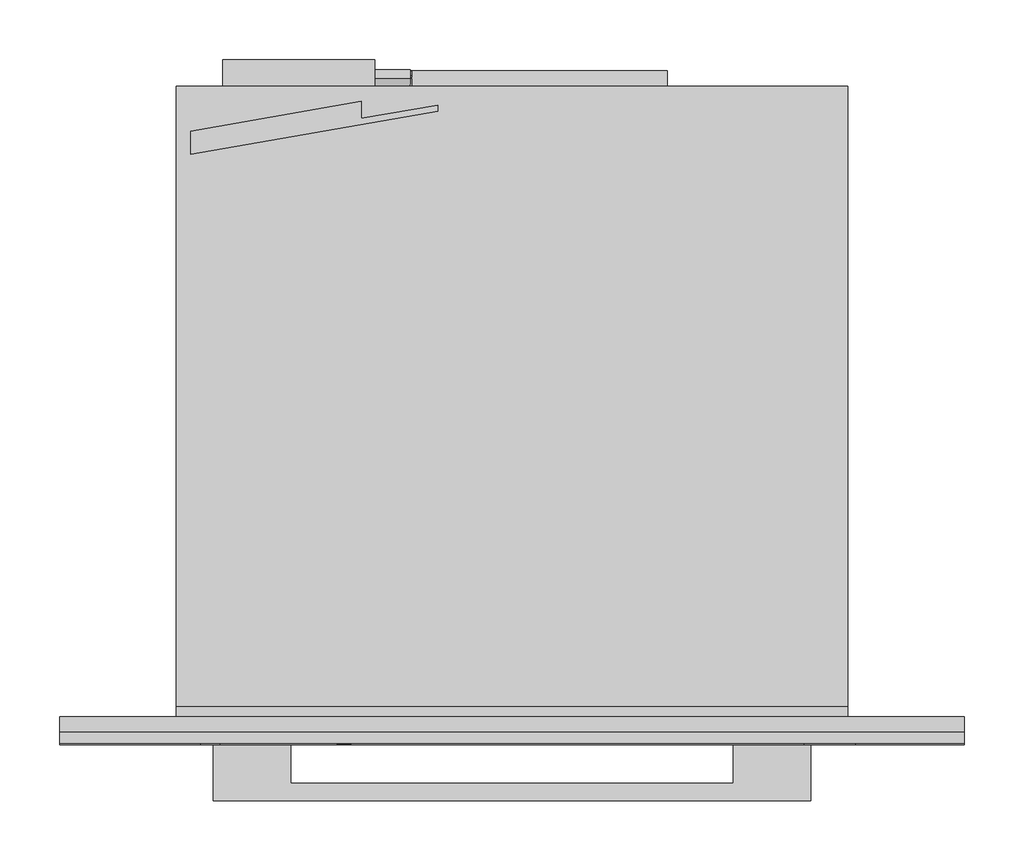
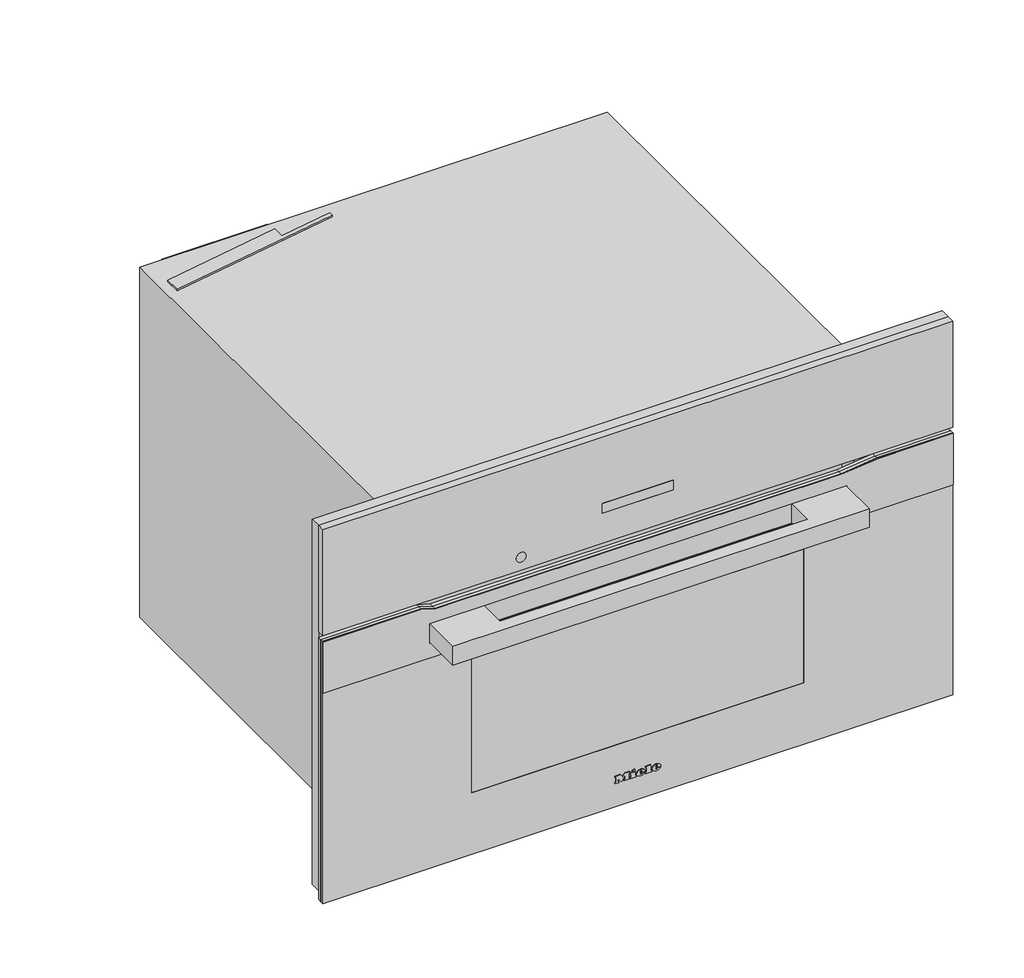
# Not in any storey: 1 proxy.
"""IFC4 building model written with IfcOpenShell, lengths in millimetres."""

from ifc_helpers import new_model, si_unit, origin, place, context, project, spatial, transform, mapped, element, save
from components import specialty_equipment_06096c74

model = new_model("IFC4")

# Units and contexts
model_context = context("Model", 3, world=origin())
ifc_project = project(units=[si_unit("LENGTHUNIT", "METRE", prefix="MILLI")], contexts=[model_context])

# Site, building
site = spatial("IfcSite", under=ifc_project)
building = spatial("IfcBuilding", under=site)

# Proxy
placement = place(None, origin())
specialty_equipment_shape = specialty_equipment_06096c74(model_context)
element("IfcBuildingElementProxy", 1, Name="11804570_USA_H7270BM_EDST-CLST : 22727046_USA_11804570_H7270BM_EDST-CLST", ObjectType="11804570_USA_H7270BM_EDST-CLST : 22727046_USA_11804570_H7270BM_EDST-CLST", at=placement, inside=building, context=model_context, shape_type="MappedRepresentation", body=[
    mapped(specialty_equipment_shape, transform((0.0, 0.0, 0.0), x_axis=(1.0, 0.0, 0.0), y_axis=(0.0, 1.0, 0.0), z_axis=(0.0, 0.0, 1.0))),
])

save(model, "model.ifc")
